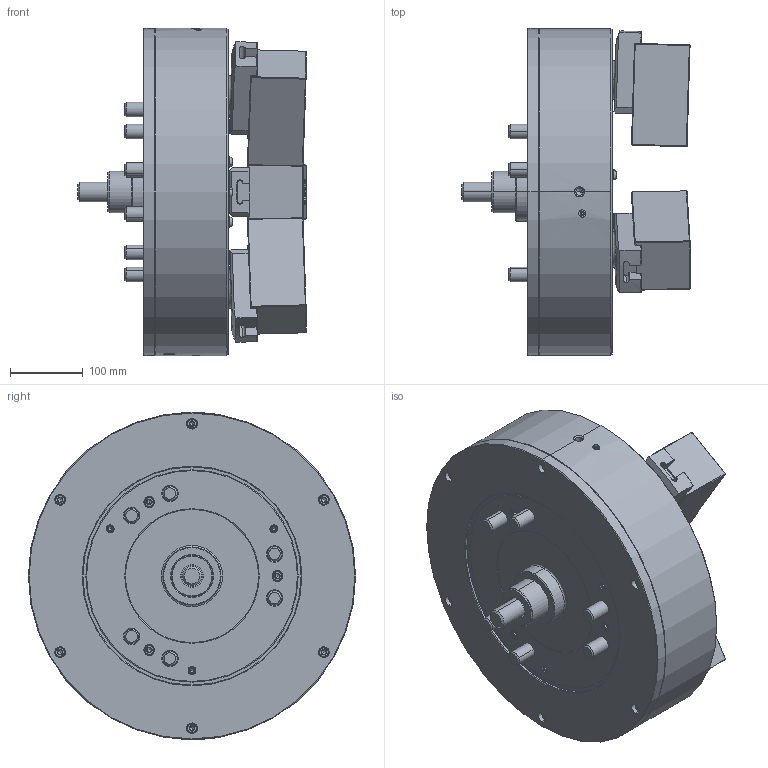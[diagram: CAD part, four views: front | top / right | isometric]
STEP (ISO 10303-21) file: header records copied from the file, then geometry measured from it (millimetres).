
FILE_DESCRIPTION (( 'STEP AP214' ), '1' );
FILE_NAME ('PW-18_OC_OD.STEP', '2024-02-07T06:59:09', ( '' ), ( '' ), 'SwSTEP 2.0', 'SolidWorks 2022', '' );
FILE_SCHEMA (( 'AUTOMOTIVE_DESIGN' ));
Length unit declared in the file: millimetre
Products named in the file (9): 61P326096; 61P422878; 61P422887; 0033108012; PW-18_結合_OD; 0030120030; 0030120120; 0030127150; PW-18_OC_OD
Assembly tree (24 placements, depth 2):
  PW-18_OC_OD
    61P422887
    61P326096  x3
    61P422878  x3
    0030120030  x6
    0030120120  x6
    0030127150
    0033108012  x3
    PW-18_結合_OD
Bounding box: 313.74 x 450 x 450 mm (x, y, z)
Volume: 21086381.5 mm3; surface area: 1028380.1 mm2
Topology: 24 solids, 27 shells, 3956 faces, 10330 edges, 6697 vertices
Faces by surface type: plane 1961, bspline 960, cone 554, cylinder 441, torus 32, sphere 8
Entity records: 144759 total; most frequent: CARTESIAN_POINT 62900, ORIENTED_EDGE 18740, DIRECTION 13223, EDGE_CURVE 9370, VERTEX_POINT 6137, VECTOR 5567, LINE 5567, EDGE_LOOP 3903
